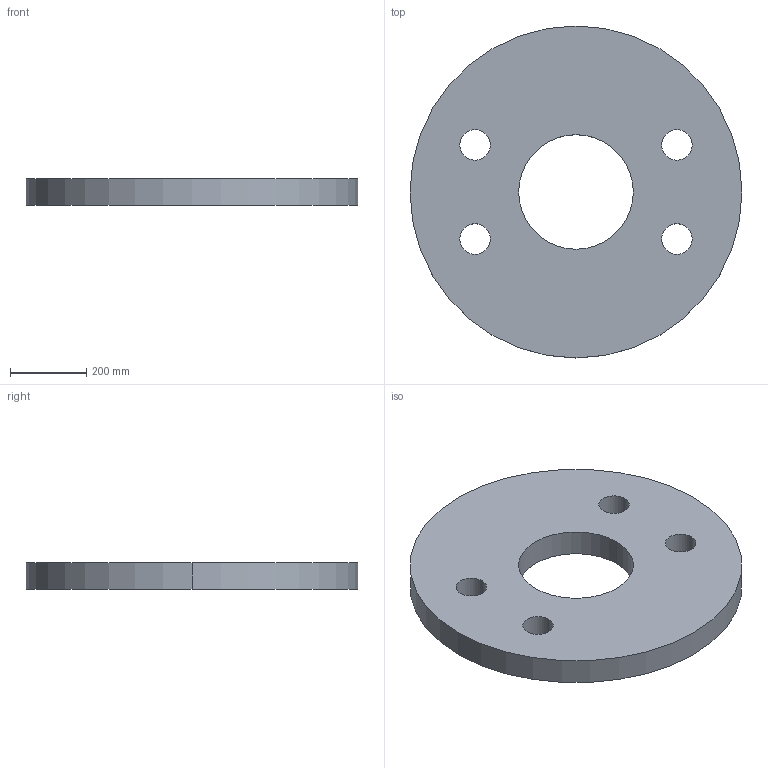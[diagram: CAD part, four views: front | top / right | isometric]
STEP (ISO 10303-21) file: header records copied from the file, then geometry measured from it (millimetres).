
FILE_DESCRIPTION (( 'STEP AP203' ), '1' );
FILE_NAME ('Kreissscheibe M76.STEP', '2018-02-22T05:55:15', ( 'install' ), ( 'Hewlett-Packard Company' ), 'SwSTEP 2.0', 'SolidWorks 2017', '' );
FILE_SCHEMA (( 'CONFIG_CONTROL_DESIGN' ));
Length unit declared in the file: millimetre
Products named in the file (1): Kreissscheibe M76
Bounding box: 869 x 869 x 70 mm (x, y, z)
Volume: 35161702.4 mm3; surface area: 1332068.3 mm2
Topology: 1 solids, 1 shells, 14 faces, 36 edges, 24 vertices
Faces by surface type: cylinder 12, plane 2
Entity records: 541 total; most frequent: DIRECTION 90, CARTESIAN_POINT 75, ORIENTED_EDGE 72, AXIS2_PLACEMENT_3D 39, EDGE_CURVE 36, EDGE_LOOP 24, CIRCLE 24, VERTEX_POINT 24
